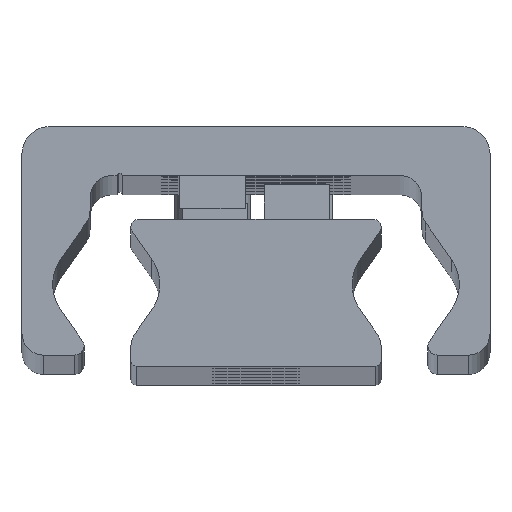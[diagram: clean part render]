
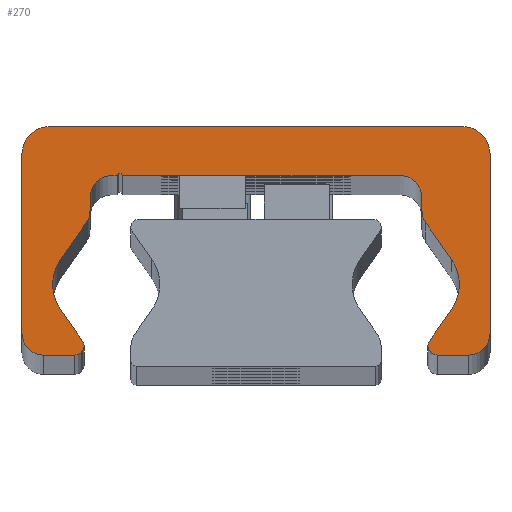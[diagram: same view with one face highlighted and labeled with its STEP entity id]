
A CAD part, top view. The second image highlights one B-rep face of the part: STEP entity #270.
In plain terms, the highlighted planar face has unit normal (0, 0, 1).
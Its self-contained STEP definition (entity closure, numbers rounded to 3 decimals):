
#270=ADVANCED_FACE('',(#740),#741,.T.);
#740=FACE_OUTER_BOUND('',#1211,.T.);
#741=PLANE('',#1212);
#1211=EDGE_LOOP('',(#2802,#2803,#2804,#2805,#2806,#2807,#2808,#2809,#2810,#2811,#2812,#2813,#2814,#2815,#2816,#2817,#2818,#2819,#2820,#2821,#2822,#2823,#2824,#2825,#2826,#2827,#2828,#2829,#2830,#2831));
#1212=AXIS2_PLACEMENT_3D('',#2832,#2833,#2834);
#2802=ORIENTED_EDGE('',*,*,#3149,.F.);
#2803=ORIENTED_EDGE('',*,*,#3382,.F.);
#2804=ORIENTED_EDGE('',*,*,#3135,.F.);
#2805=ORIENTED_EDGE('',*,*,#3381,.F.);
#2806=ORIENTED_EDGE('',*,*,#3377,.F.);
#2807=ORIENTED_EDGE('',*,*,#3374,.F.);
#2808=ORIENTED_EDGE('',*,*,#3371,.F.);
#2809=ORIENTED_EDGE('',*,*,#3368,.F.);
#2810=ORIENTED_EDGE('',*,*,#3365,.F.);
#2811=ORIENTED_EDGE('',*,*,#3362,.F.);
#2812=ORIENTED_EDGE('',*,*,#3359,.F.);
#2813=ORIENTED_EDGE('',*,*,#3356,.F.);
#2814=ORIENTED_EDGE('',*,*,#3353,.F.);
#2815=ORIENTED_EDGE('',*,*,#3350,.F.);
#2816=ORIENTED_EDGE('',*,*,#3141,.F.);
#2817=ORIENTED_EDGE('',*,*,#3348,.F.);
#2818=ORIENTED_EDGE('',*,*,#3143,.F.);
#2819=ORIENTED_EDGE('',*,*,#3347,.F.);
#2820=ORIENTED_EDGE('',*,*,#3343,.F.);
#2821=ORIENTED_EDGE('',*,*,#3340,.F.);
#2822=ORIENTED_EDGE('',*,*,#3337,.F.);
#2823=ORIENTED_EDGE('',*,*,#3334,.F.);
#2824=ORIENTED_EDGE('',*,*,#3331,.F.);
#2825=ORIENTED_EDGE('',*,*,#3328,.F.);
#2826=ORIENTED_EDGE('',*,*,#3325,.F.);
#2827=ORIENTED_EDGE('',*,*,#3322,.F.);
#2828=ORIENTED_EDGE('',*,*,#3319,.F.);
#2829=ORIENTED_EDGE('',*,*,#3316,.F.);
#2830=ORIENTED_EDGE('',*,*,#3313,.F.);
#2831=ORIENTED_EDGE('',*,*,#3310,.F.);
#2832=CARTESIAN_POINT('',(-0.023,14.187,1010.0));
#2833=DIRECTION('',(0.0,0.0,1.0));
#2834=DIRECTION('',(1.0,0.0,0.0));
#3135=EDGE_CURVE('',#3810,#3813,#3814,.T.);
#3141=EDGE_CURVE('',#3823,#3819,#3825,.T.);
#3143=EDGE_CURVE('',#3826,#3829,#3830,.T.);
#3149=EDGE_CURVE('',#3839,#3835,#3841,.T.);
#3310=EDGE_CURVE('',#3835,#4100,#4101,.T.);
#3313=EDGE_CURVE('',#4100,#4105,#4106,.T.);
#3316=EDGE_CURVE('',#4105,#4110,#4111,.T.);
#3319=EDGE_CURVE('',#4110,#4115,#4116,.T.);
#3322=EDGE_CURVE('',#4115,#4120,#4121,.T.);
#3325=EDGE_CURVE('',#4120,#4125,#4126,.T.);
#3328=EDGE_CURVE('',#4125,#4130,#4131,.T.);
#3331=EDGE_CURVE('',#4130,#4135,#4136,.T.);
#3334=EDGE_CURVE('',#4135,#4140,#4141,.T.);
#3337=EDGE_CURVE('',#4140,#4145,#4146,.T.);
#3340=EDGE_CURVE('',#4145,#4150,#4151,.T.);
#3343=EDGE_CURVE('',#4150,#4155,#4156,.T.);
#3347=EDGE_CURVE('',#4155,#3826,#4161,.T.);
#3348=EDGE_CURVE('',#3829,#3823,#4162,.T.);
#3350=EDGE_CURVE('',#3819,#4164,#4165,.T.);
#3353=EDGE_CURVE('',#4164,#4169,#4170,.T.);
#3356=EDGE_CURVE('',#4169,#4174,#4175,.T.);
#3359=EDGE_CURVE('',#4174,#4179,#4180,.T.);
#3362=EDGE_CURVE('',#4179,#4184,#4185,.T.);
#3365=EDGE_CURVE('',#4184,#4189,#4190,.T.);
#3368=EDGE_CURVE('',#4189,#4194,#4195,.T.);
#3371=EDGE_CURVE('',#4194,#4199,#4200,.T.);
#3374=EDGE_CURVE('',#4199,#4204,#4205,.T.);
#3377=EDGE_CURVE('',#4204,#4209,#4210,.T.);
#3381=EDGE_CURVE('',#4209,#3810,#4215,.T.);
#3382=EDGE_CURVE('',#3813,#3839,#4216,.T.);
#3810=VERTEX_POINT('',#4782);
#3813=VERTEX_POINT('',#4786);
#3814=CIRCLE('',#4787,0.85);
#3819=VERTEX_POINT('',#4793);
#3823=VERTEX_POINT('',#4798);
#3825=CIRCLE('',#4801,0.85);
#3826=VERTEX_POINT('',#4802);
#3829=VERTEX_POINT('',#4806);
#3830=CIRCLE('',#4807,4.);
#3835=VERTEX_POINT('',#4813);
#3839=VERTEX_POINT('',#4818);
#3841=CIRCLE('',#4821,4.);
#4100=VERTEX_POINT('',#5158);
#4101=CIRCLE('',#5159,4.);
#4105=VERTEX_POINT('',#5164);
#4106=LINE('',#5165,#5166);
#4110=VERTEX_POINT('',#5172);
#4111=CIRCLE('',#5173,2.);
#4115=VERTEX_POINT('',#5178);
#4116=LINE('',#5179,#5180);
#4120=VERTEX_POINT('',#5186);
#4121=CIRCLE('',#5187,2.0);
#4125=VERTEX_POINT('',#5192);
#4126=LINE('',#5193,#5194);
#4130=VERTEX_POINT('',#5200);
#4131=CIRCLE('',#5201,0.25);
#4135=VERTEX_POINT('',#5206);
#4136=LINE('',#5207,#5208);
#4140=VERTEX_POINT('',#5214);
#4141=CIRCLE('',#5215,2.0);
#4145=VERTEX_POINT('',#5220);
#4146=LINE('',#5221,#5222);
#4150=VERTEX_POINT('',#5228);
#4151=CIRCLE('',#5229,2.0);
#4155=VERTEX_POINT('',#5234);
#4156=LINE('',#5235,#5236);
#4161=CIRCLE('',#5243,4.);
#4162=LINE('',#5244,#5245);
#4164=VERTEX_POINT('',#5248);
#4165=CIRCLE('',#5249,0.85);
#4169=VERTEX_POINT('',#5254);
#4170=LINE('',#5255,#5256);
#4174=VERTEX_POINT('',#5262);
#4175=CIRCLE('',#5263,2.);
#4179=VERTEX_POINT('',#5268);
#4180=LINE('',#5269,#5270);
#4184=VERTEX_POINT('',#5276);
#4185=CIRCLE('',#5277,2.5);
#4189=VERTEX_POINT('',#5282);
#4190=LINE('',#5283,#5284);
#4194=VERTEX_POINT('',#5290);
#4195=CIRCLE('',#5291,2.5);
#4199=VERTEX_POINT('',#5296);
#4200=LINE('',#5297,#5298);
#4204=VERTEX_POINT('',#5304);
#4205=CIRCLE('',#5305,2.);
#4209=VERTEX_POINT('',#5310);
#4210=LINE('',#5311,#5312);
#4215=CIRCLE('',#5319,0.85);
#4216=LINE('',#5320,#5321);
#4782=CARTESIAN_POINT('',(15.8,1.859,1010.0));
#4786=CARTESIAN_POINT('',(15.922,2.298,1010.0));
#4787=AXIS2_PLACEMENT_3D('',#5847,#5848,#5849);
#4793=CARTESIAN_POINT('',(-15.8,1.859,1010.0));
#4798=CARTESIAN_POINT('',(-15.922,2.298,1010.0));
#4801=AXIS2_PLACEMENT_3D('',#5859,#5860,#5861);
#4802=CARTESIAN_POINT('',(-18.688,7.509,1010.0));
#4806=CARTESIAN_POINT('',(-17.964,5.214,1010.0));
#4807=AXIS2_PLACEMENT_3D('',#5863,#5864,#5865);
#4813=CARTESIAN_POINT('',(18.688,7.509,1010.0));
#4818=CARTESIAN_POINT('',(17.964,5.214,1010.0));
#4821=AXIS2_PLACEMENT_3D('',#5875,#5876,#5877);
#5158=CARTESIAN_POINT('',(17.964,9.803,1010.0));
#5159=AXIS2_PLACEMENT_3D('',#6202,#6203,#6204);
#5164=CARTESIAN_POINT('',(15.612,13.163,1010.0));
#5165=CARTESIAN_POINT('',(15.612,13.163,1010.0));
#5166=VECTOR('',#6209,1.0);
#5172=CARTESIAN_POINT('',(15.25,14.31,1010.0));
#5173=AXIS2_PLACEMENT_3D('',#6212,#6213,#6214);
#5178=CARTESIAN_POINT('',(15.25,15.509,1010.0));
#5179=CARTESIAN_POINT('',(15.25,15.509,1010.0));
#5180=VECTOR('',#6219,1.0);
#5186=CARTESIAN_POINT('',(13.25,17.509,1010.0));
#5187=AXIS2_PLACEMENT_3D('',#6222,#6223,#6224);
#5192=CARTESIAN_POINT('',(-12.25,17.509,1010.0));
#5193=CARTESIAN_POINT('',(-12.25,17.509,1010.0));
#5194=VECTOR('',#6229,1.0);
#5200=CARTESIAN_POINT('',(-12.75,17.509,1010.0));
#5201=AXIS2_PLACEMENT_3D('',#6232,#6233,#6234);
#5206=CARTESIAN_POINT('',(-13.25,17.509,1010.0));
#5207=CARTESIAN_POINT('',(-13.25,17.509,1010.0));
#5208=VECTOR('',#6239,1.0);
#5214=CARTESIAN_POINT('',(-15.25,15.509,1010.0));
#5215=AXIS2_PLACEMENT_3D('',#6242,#6243,#6244);
#5220=CARTESIAN_POINT('',(-15.25,14.31,1010.0));
#5221=CARTESIAN_POINT('',(-15.25,14.31,1010.0));
#5222=VECTOR('',#6249,1.0);
#5228=CARTESIAN_POINT('',(-15.612,13.163,1010.0));
#5229=AXIS2_PLACEMENT_3D('',#6252,#6253,#6254);
#5234=CARTESIAN_POINT('',(-17.964,9.803,1010.0));
#5235=CARTESIAN_POINT('',(-17.964,9.803,1010.0));
#5236=VECTOR('',#6259,1.0);
#5243=AXIS2_PLACEMENT_3D('',#6265,#6266,#6267);
#5244=CARTESIAN_POINT('',(-15.922,2.298,1010.0));
#5245=VECTOR('',#6268,1.0);
#5248=CARTESIAN_POINT('',(-16.65,1.009,1010.0));
#5249=AXIS2_PLACEMENT_3D('',#6270,#6271,#6272);
#5254=CARTESIAN_POINT('',(-19.5,1.009,1010.0));
#5255=CARTESIAN_POINT('',(-19.5,1.009,1010.0));
#5256=VECTOR('',#6277,1.0);
#5262=CARTESIAN_POINT('',(-21.5,3.009,1010.0));
#5263=AXIS2_PLACEMENT_3D('',#6280,#6281,#6282);
#5268=CARTESIAN_POINT('',(-21.5,19.509,1010.0));
#5269=CARTESIAN_POINT('',(-21.5,19.509,1010.0));
#5270=VECTOR('',#6287,1.0);
#5276=CARTESIAN_POINT('',(-19.0,22.009,1010.0));
#5277=AXIS2_PLACEMENT_3D('',#6290,#6291,#6292);
#5282=CARTESIAN_POINT('',(19.0,22.009,1010.0));
#5283=CARTESIAN_POINT('',(19.0,22.009,1010.0));
#5284=VECTOR('',#6297,1.0);
#5290=CARTESIAN_POINT('',(21.5,19.509,1010.0));
#5291=AXIS2_PLACEMENT_3D('',#6300,#6301,#6302);
#5296=CARTESIAN_POINT('',(21.5,3.009,1010.0));
#5297=CARTESIAN_POINT('',(21.5,3.009,1010.0));
#5298=VECTOR('',#6307,1.0);
#5304=CARTESIAN_POINT('',(19.5,1.009,1010.0));
#5305=AXIS2_PLACEMENT_3D('',#6310,#6311,#6312);
#5310=CARTESIAN_POINT('',(16.65,1.009,1010.0));
#5311=CARTESIAN_POINT('',(16.65,1.009,1010.0));
#5312=VECTOR('',#6317,1.0);
#5319=AXIS2_PLACEMENT_3D('',#6323,#6324,#6325);
#5320=CARTESIAN_POINT('',(17.964,5.214,1010.0));
#5321=VECTOR('',#6326,1.0);
#5847=CARTESIAN_POINT('',(16.65,1.859,1010.0));
#5848=DIRECTION('',(0.0,0.0,-1.0));
#5849=DIRECTION('',(1.0,0.0,0.0));
#5859=CARTESIAN_POINT('',(-16.65,1.859,1010.0));
#5860=DIRECTION('',(0.0,0.0,-1.0));
#5861=DIRECTION('',(1.0,0.0,0.0));
#5863=CARTESIAN_POINT('',(-14.688,7.509,1010.0));
#5864=DIRECTION('',(0.0,0.0,1.0));
#5865=DIRECTION('',(1.0,0.0,0.0));
#5875=CARTESIAN_POINT('',(14.688,7.509,1010.0));
#5876=DIRECTION('',(0.0,0.0,1.0));
#5877=DIRECTION('',(1.0,0.0,0.0));
#6202=CARTESIAN_POINT('',(14.688,7.509,1010.0));
#6203=DIRECTION('',(0.0,0.0,1.0));
#6204=DIRECTION('',(1.0,0.0,0.0));
#6209=DIRECTION('',(-0.574,0.819,0.0));
#6212=CARTESIAN_POINT('',(17.25,14.31,1010.0));
#6213=DIRECTION('',(0.0,0.0,-1.0));
#6214=DIRECTION('',(1.0,0.0,0.0));
#6219=DIRECTION('',(0.0,1.0,0.0));
#6222=CARTESIAN_POINT('',(13.25,15.509,1010.0));
#6223=DIRECTION('',(0.0,0.0,1.0));
#6224=DIRECTION('',(1.0,0.0,0.0));
#6229=DIRECTION('',(-1.0,-0.0,-0.0));
#6232=CARTESIAN_POINT('',(-12.5,17.509,1010.0));
#6233=DIRECTION('',(0.0,0.0,1.0));
#6234=DIRECTION('',(1.0,0.0,0.0));
#6239=DIRECTION('',(-1.0,-0.0,-0.0));
#6242=CARTESIAN_POINT('',(-13.25,15.509,1010.0));
#6243=DIRECTION('',(0.0,0.0,1.0));
#6244=DIRECTION('',(1.0,0.0,0.0));
#6249=DIRECTION('',(-0.0,-1.0,-0.0));
#6252=CARTESIAN_POINT('',(-17.25,14.31,1010.0));
#6253=DIRECTION('',(0.0,0.0,-1.0));
#6254=DIRECTION('',(1.0,0.0,0.0));
#6259=DIRECTION('',(-0.574,-0.819,-0.0));
#6265=CARTESIAN_POINT('',(-14.688,7.509,1010.0));
#6266=DIRECTION('',(0.0,0.0,1.0));
#6267=DIRECTION('',(1.0,0.0,0.0));
#6268=DIRECTION('',(0.574,-0.819,0.0));
#6270=CARTESIAN_POINT('',(-16.65,1.859,1010.0));
#6271=DIRECTION('',(0.0,0.0,-1.0));
#6272=DIRECTION('',(1.0,0.0,0.0));
#6277=DIRECTION('',(-1.0,-0.0,-0.0));
#6280=CARTESIAN_POINT('',(-19.5,3.009,1010.0));
#6281=DIRECTION('',(0.0,0.0,-1.0));
#6282=DIRECTION('',(1.0,0.0,0.0));
#6287=DIRECTION('',(0.0,1.0,0.0));
#6290=CARTESIAN_POINT('',(-19.0,19.509,1010.0));
#6291=DIRECTION('',(0.0,0.0,-1.0));
#6292=DIRECTION('',(1.0,0.0,0.0));
#6297=DIRECTION('',(1.0,0.0,0.0));
#6300=CARTESIAN_POINT('',(19.0,19.509,1010.0));
#6301=DIRECTION('',(0.0,0.0,-1.0));
#6302=DIRECTION('',(1.0,0.0,0.0));
#6307=DIRECTION('',(-0.0,-1.0,-0.0));
#6310=CARTESIAN_POINT('',(19.5,3.009,1010.0));
#6311=DIRECTION('',(0.0,0.0,-1.0));
#6312=DIRECTION('',(1.0,0.0,0.0));
#6317=DIRECTION('',(-1.0,-0.0,-0.0));
#6323=CARTESIAN_POINT('',(16.65,1.859,1010.0));
#6324=DIRECTION('',(0.0,0.0,-1.0));
#6325=DIRECTION('',(1.0,0.0,0.0));
#6326=DIRECTION('',(0.574,0.819,0.0));
